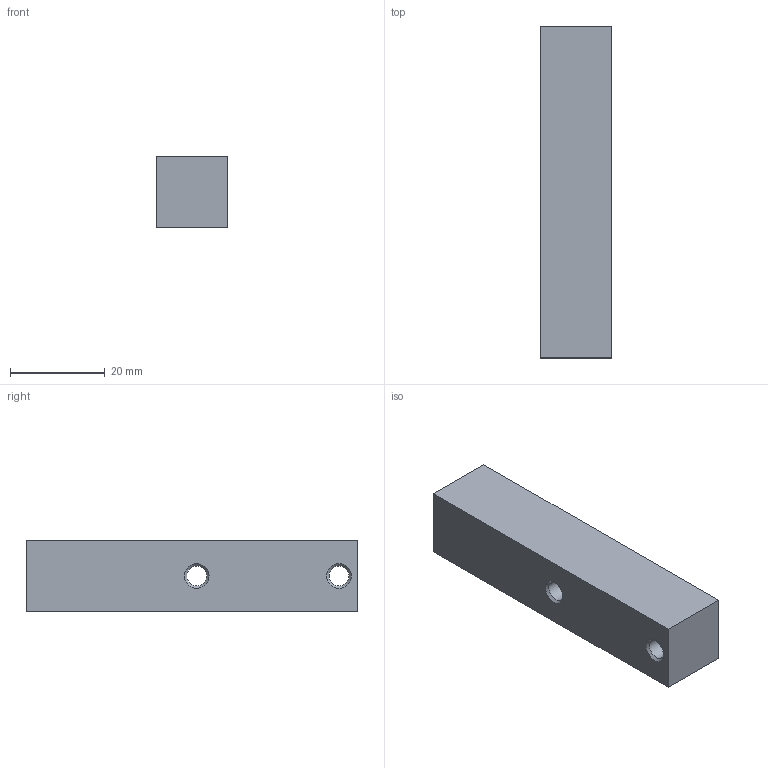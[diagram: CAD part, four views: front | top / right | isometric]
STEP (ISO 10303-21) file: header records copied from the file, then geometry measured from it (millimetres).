
FILE_DESCRIPTION(/* description */ (''),/* implementation_level */ '2;1');
FILE_NAME(/* name */ 'WHEELS-INSERT.06.stp',/* time_stamp */ '2018-05-25T14:09:17+02:00',/* author */ (''),/* organization */ (''),/* preprocessor_version */ 'ST-DEVELOPER v16.7',/* originating_system */ 'SIEMENS PLM Software NX 12.0',/* authorisation */ '');
FILE_SCHEMA (('AP203_CONFIGURATION_CONTROLLED_3D_DESIGN_OF_MECHANICAL_PARTS_AND_ASSEMBLIES_MIM_LF { 1 0 10303 403 2 1 2}'));
Length unit declared in the file: millimetre
Products named in the file (1): turc66A81BAD9zc4
Bounding box: 15 x 70 x 15 mm (x, y, z)
Volume: 14173.6 mm3; surface area: 5639.2 mm2
Topology: 1 solids, 1 shells, 15 faces, 42 edges, 29 vertices
Faces by surface type: plane 6, cone 6, cylinder 3
Full cylindrical faces by diameter (mm): 4.2 x2, 6.8 x1
Entity records: 528 total; most frequent: DIRECTION 78, CARTESIAN_POINT 65, ORIENTED_EDGE 46, AXIS2_PLACEMENT_3D 33, EDGE_LOOP 28, FACE_BOUND 26, EDGE_CURVE 23, VERTEX_POINT 20
